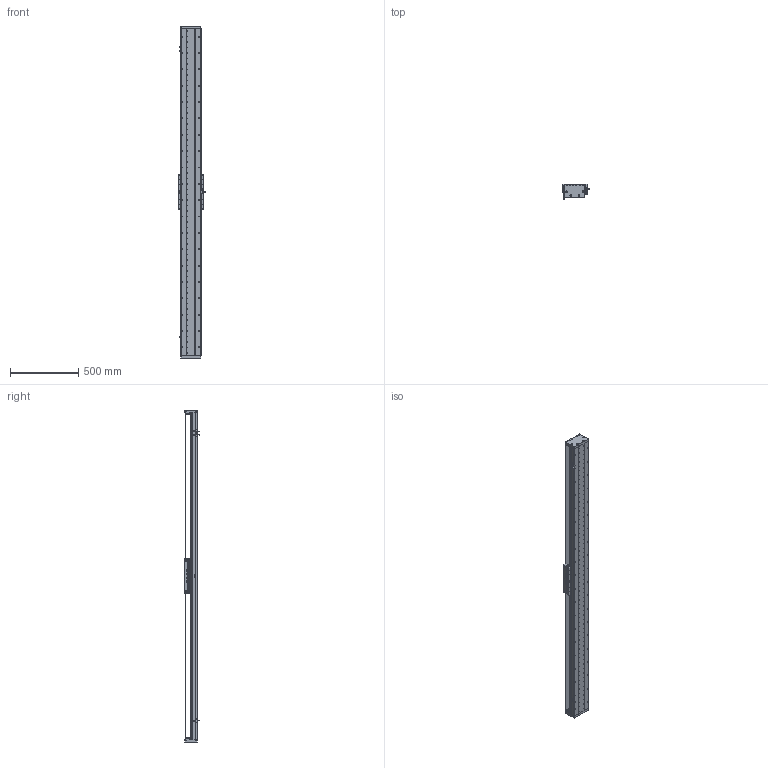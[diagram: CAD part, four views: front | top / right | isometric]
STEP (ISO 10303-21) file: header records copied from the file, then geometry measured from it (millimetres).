
FILE_DESCRIPTION (( 'STEP AP203' ), '1' );
FILE_NAME ('DA-C145-C3-T2100-C010-0.2 眻盄萇儂.STEP', '2025-08-14T01:31:11', ( '' ), ( '' ), 'SwSTEP 2.0', 'SolidWorks 2019', '' );
FILE_SCHEMA (( 'CONFIG_CONTROL_DESIGN' ));
Length unit declared in the file: millimetre
Products named in the file (32): 葩璃 CKM03-W060-C1C2-TP-0.2^DA-C145-C3-T-C010-0.2; 复件 DA146 钢带垫块^复件 CU145 钢带组件_DA-C145-C3-T-C010-0.2; 复件 DA145-C3-DK-00 挡块^CU145-W 滚珠滑台; 复件 DA145-C3-YB-A-00 压板A^CU145-W 滚珠滑台; 复件 DA146 钢带拉块^复件 CU145 钢带组件_DA-C145-C3-T-C010-0.2; 复件 DA145-GYP-00 光电感应片^DA-C145-C3-T-C010-0.2; IU-CU145-L-00 菁釱(L2400); 葩璃 PM-T45^DA-C145-C3-T-C010-0.2; 复件 DA95-DB-00  挡板^CU145-W 滚珠滑台; 复件 DA145-C3-YB-B-00 压板B^CU145-W 滚珠滑台; 复件 纯铜油杯 6x6mm^CU145-W 滚珠滑台; CU145-W-00 珨极趙賑雄怢啣; TAY01-M8; 复件 DA145 钢带^复件 CU145 钢带组件_DA-C145-C3-T-C010-0.2; 葩璃 CU145 詩湍郪璃^DA-C145-C3-T-C010-0.2; DA-C145-C3-T2100-C010-0.2 眻盄萇儂; IU-CU145-L 菁釱絳寢; 葩璃 DA95-GT-T-00^IU-CU145-L 菁釱絳寢; CU145-W 幗紩賑怢; 复件 半圆头内六角螺钉 M3×6^CU145-W 滚珠滑台; 葩璃 DMA-010-0.2 黍杅芛^DA-C145-C3-T-C010-0.2; 66245-CU145-HT-W-00 賑雄怢啣(3D芞祧)(00); 复件 DA95-MFP-01 密封片^CU145-W 滚珠滑台; 葩璃 XD-U-02L 棠掑喜^DA-C145-C3-T-C010-0.2; 葩璃 DA145-C3-DP-A-00 菜えA^CU145-W 幗紩賑怢; 葩璃 DA145-C3-DP-B-00 菜えB^CU145-W 幗紩賑怢; 葩璃 鞠褒情蹟譫 M3^DA-C145-C3-T-C010-0.2; 复件 内六角平端紧定螺钉 GB.T77-2000 M5×10^CU145-W 滚珠滑台; 复件 DA95-HK-GT-00 滑块钢轨^CU145-W-00 一体化滑动台板; 葩璃 CKMA01-W060-TRL^DA-C145-C3-T-C010-0.2; 葩璃 DA95-HXJ-00 遣喳砎蝶^DA-C145-C3-T-C010-0.2; 复件 DA145-DG 钢带端盖^复件 CU145 钢带组件_DA-C145-C3-T-C010-0.2
Assembly tree (103 placements, depth 4):
  DA-C145-C3-T2100-C010-0.2 眻盄萇儂
    IU-CU145-L 菁釱絳寢
      IU-CU145-L-00 菁釱(L2400)
      葩璃 DA95-GT-T-00^IU-CU145-L 菁釱絳寢  x4
    葩璃 CU145 詩湍郪璃^DA-C145-C3-T-C010-0.2
      复件 DA145-DG 钢带端盖^复件 CU145 钢带组件_DA-C145-C3-T-C010-0.2  x2
      复件 DA146 钢带拉块^复件 CU145 钢带组件_DA-C145-C3-T-C010-0.2  x2
      复件 DA146 钢带垫块^复件 CU145 钢带组件_DA-C145-C3-T-C010-0.2  x2
      复件 DA145 钢带^复件 CU145 钢带组件_DA-C145-C3-T-C010-0.2
    CU145-W 幗紩賑怢
      CU145-W-00 珨极趙賑雄怢啣
        66245-CU145-HT-W-00 賑雄怢啣(3D芞祧)(00)
        复件 DA95-HK-GT-00 滑块钢轨^CU145-W-00 一体化滑动台板  x8
      复件 DA95-MFP-01 密封片^CU145-W 滚珠滑台  x8
      复件 DA95-DB-00  挡板^CU145-W 滚珠滑台  x8
      复件 内六角平端紧定螺钉 GB.T77-2000 M5×10^CU145-W 滚珠滑台  x4
      复件 纯铜油杯 6x6mm^CU145-W 滚珠滑台  x4
      复件 半圆头内六角螺钉 M3×6^CU145-W 滚珠滑台  x16
      复件 DA145-C3-DK-00 挡块^CU145-W 滚珠滑台  x4
      葩璃 DA145-C3-DP-B-00 菜えB^CU145-W 幗紩賑怢  x2
      复件 DA145-C3-YB-B-00 压板B^CU145-W 滚珠滑台  x2
      葩璃 DA145-C3-DP-A-00 菜えA^CU145-W 幗紩賑怢  x3
      复件 DA145-C3-YB-A-00 压板A^CU145-W 滚珠滑台  x3
      TAY01-M8  x4
    葩璃 CKMA01-W060-TRL^DA-C145-C3-T-C010-0.2
    葩璃 PM-T45^DA-C145-C3-T-C010-0.2  x3
    葩璃 XD-U-02L 棠掑喜^DA-C145-C3-T-C010-0.2
    葩璃 DA95-HXJ-00 遣喳砎蝶^DA-C145-C3-T-C010-0.2  x4
    复件 DA145-GYP-00 光电感应片^DA-C145-C3-T-C010-0.2
    葩璃 DMA-010-0.2 黍杅芛^DA-C145-C3-T-C010-0.2
    葩璃 CKM03-W060-C1C2-TP-0.2^DA-C145-C3-T-C010-0.2
    葩璃 鞠褒情蹟譫 M3^DA-C145-C3-T-C010-0.2  x8
Bounding box: 203.5 x 108.45 x 2436 mm (x, y, z)
Volume: 11663334.1 mm3; surface area: 3862976.2 mm2
Topology: 99 solids, 131 shells, 4575 faces, 12944 edges, 8094 vertices
Faces by surface type: cylinder 2215, plane 1592, cone 690, torus 74, sphere 4
Entity records: 123030 total; most frequent: CARTESIAN_POINT 35970, ORIENTED_EDGE 17408, DIRECTION 16727, EDGE_CURVE 8704, AXIS2_PLACEMENT_3D 6282, VERTEX_POINT 5633, VECTOR 4163, LINE 4163
